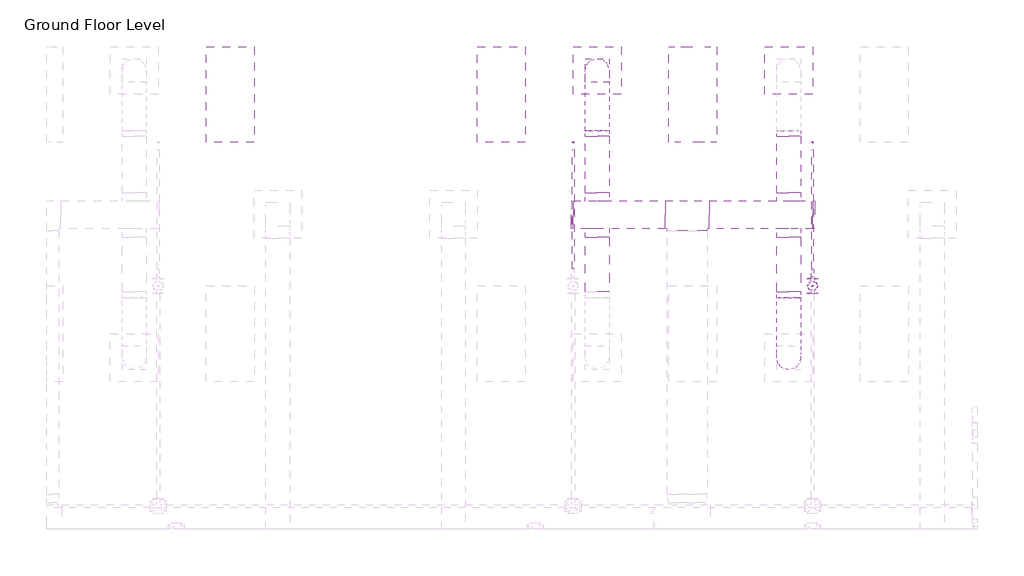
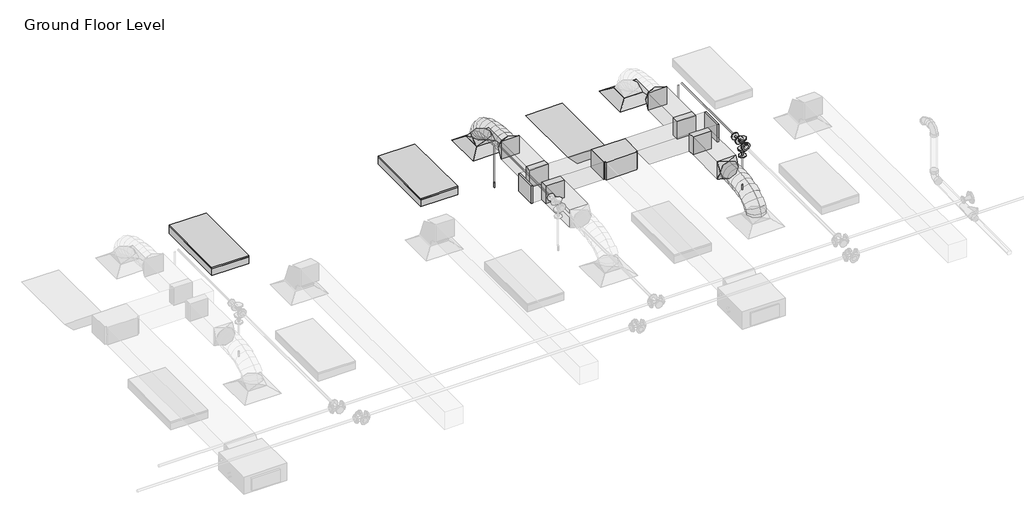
# One storey, part 57 of 74: 11 duct fittings, 8 duct segments, 5 pipe segments, 3 fire suppression terminals, 3 light fixtures, 3 pipe fittings, 2 air terminals.
"""IFC4 building model written with IfcOpenShell, lengths in millimetres."""

from ifc_helpers import new_model, si_unit, point, frame, frame_2d, origin, place, context, project, spatial, polyline, circle_curve, ellipse_curve, trimmed, segment, composite_curve, outline, extrude, transform, mapped, element, save
from ifc_brep_helpers import plane_surface, cylinder_surface, advanced_brep
from components import m_return_diffuser_600_x_600_face_300_x_300_connection_ff221211, m_rectangular_endcap_standard_eed78c44, m_rectangular_takeoff_standard_cb0ccb98, m_rectangular_takeoff_standard_2be5eba1, m_rectangular_tee_standard_9fc1ddf1, m_rectangular_to_round_transition_angle_45_degree_641efff0, m_sprinkler_dry_pendent_hosted_15_mm_dry_pendent_9bda8e11, m_emergency_recessed_lighting_fixture_600x1200_277_5b10b25d, m_troffer_light_parabolic_rectangular1_0600x1200mm_4_lamp_86473d4a, m_reducer_flanged_cs_class_150_standard_d42b2106, m_tee_round_base_flanged_cs_class_150_standard_7e5987a1

model = new_model("IFC4")

# Units and contexts
model_context = context("Model", 3, world=origin())
ifc_project = project(units=[si_unit("LENGTHUNIT", "METRE", prefix="MILLI")], contexts=[model_context])

# Site, building, storey
site = spatial("IfcSite", under=ifc_project)
building = spatial("IfcBuilding", under=site)
storey = spatial("IfcBuildingStorey", under=building, Name="Ground Floor Level", Elevation=900.0)

# Air terminals
placement = place(None, origin())
m_return_diffuser_600_x_600_face_300_x_300_connection_shape = m_return_diffuser_600_x_600_face_300_x_300_connection_ff221211(model_context)
element("IfcAirTerminal", 1, ObjectType="M_Supply Diffuser : 600 x 600 Face 300 x 300 Connection", at=placement, inside=storey, context=model_context, shape_type="MappedRepresentation", body=[
    mapped(m_return_diffuser_600_x_600_face_300_x_300_connection_shape, transform((-10937.2327605, 20535.2153534, 3650.0), x_axis=(1.0, 0.0, 0.0), y_axis=(0.0, 1.0, 0.0), z_axis=(0.0, 0.0, 1.0))),
])
element("IfcAirTerminal", 2, ObjectType="M_Supply Diffuser : 600 x 600 Face 300 x 300 Connection", at=placement, inside=storey, context=model_context, shape_type="MappedRepresentation", body=[
    mapped(m_return_diffuser_600_x_600_face_300_x_300_connection_shape, transform((-8537.2327605, 20535.2153534, 3650.0), x_axis=(1.0, 0.0, 0.0), y_axis=(0.0, 1.0, 0.0), z_axis=(0.0, 0.0, 1.0))),
])

# Duct fittings
m_rectangular_endcap_standard_shape = m_rectangular_endcap_standard_eed78c44(model_context)
element("IfcDuctFitting", 3, ObjectType="M_Rectangular Endcap : Standard", at=placement, inside=storey, context=model_context, shape_type="MappedRepresentation", body=[
    mapped(m_rectangular_endcap_standard_shape, transform((-8233.7327999, 18724.6783949, 4099.998205), x_axis=(0.9999999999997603, 0.0, -6.924715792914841e-07), y_axis=(0.0, 1.0000000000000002, 0.0), z_axis=(6.924715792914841e-07, 0.0, 0.9999999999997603))),
])
element("IfcDuctFitting", 4, ObjectType="M_Rectangular Endcap : Standard", at=placement, inside=storey, context=model_context, shape_type="MappedRepresentation", body=[
    mapped(m_rectangular_endcap_standard_shape, transform((-11237.2326293, 18724.6783949, 4099.9983101), x_axis=(-0.9999999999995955, 0.0, -8.994654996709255e-07), y_axis=(0.0, -1.0000000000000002, 0.0), z_axis=(-8.994654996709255e-07, 0.0, 0.9999999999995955))),
])
m_rectangular_takeoff_standard_shape = m_rectangular_takeoff_standard_cb0ccb98(model_context)
element("IfcDuctFitting", 5, ObjectType="M_Rectangular Takeoff : Standard", at=placement, inside=storey, context=model_context, shape_type="MappedRepresentation", body=[
    mapped(m_rectangular_takeoff_standard_shape, transform((-8537.2327605, 18899.6783949, 4099.9984152), x_axis=(0.0, 1.0, 0.0), y_axis=(1.0, 0.0, 0.0), z_axis=(0.0, 0.0, -1.0))),
])
element("IfcDuctFitting", 6, ObjectType="M_Rectangular Takeoff : Standard", at=placement, inside=storey, context=model_context, shape_type="MappedRepresentation", body=[
    mapped(m_rectangular_takeoff_standard_shape, transform((-10937.2327605, 18549.6783949, 4099.9985799), x_axis=(0.0, -1.0, 0.0), y_axis=(-1.0, 0.0, 0.0), z_axis=(0.0, 0.0, -1.0))),
])
m_rectangular_takeoff_standard_2_shape = m_rectangular_takeoff_standard_2be5eba1(model_context)
element("IfcDuctFitting", 7, ObjectType="M_Rectangular Takeoff : Standard", at=placement, inside=storey, context=model_context, shape_type="MappedRepresentation", body=[
    mapped(m_rectangular_takeoff_standard_2_shape, transform((-10937.2327605, 18899.6783949, 4099.9985799), x_axis=(0.0, 1.0, 0.0), y_axis=(1.0, 0.0, 0.0), z_axis=(0.0, 0.0, -1.0))),
])
element("IfcDuctFitting", 8, ObjectType="M_Rectangular Takeoff : Standard", at=placement, inside=storey, context=model_context, shape_type="MappedRepresentation", body=[
    mapped(m_rectangular_takeoff_standard_2_shape, transform((-8537.2327605, 18549.6783949, 4099.9984152), x_axis=(0.0, -1.0, 0.0), y_axis=(-1.0, 0.0, 0.0), z_axis=(0.0, 0.0, -1.0))),
])
m_rectangular_tee_standard_shape = m_rectangular_tee_standard_9fc1ddf1(model_context)
element("IfcDuctFitting", 9, ObjectType="M_Rectangular Tee : Standard", at=placement, inside=storey, context=model_context, shape_type="MappedRepresentation", body=[
    mapped(m_rectangular_tee_standard_shape, transform((-9808.7327605, 18724.6783949, 4099.9992264), x_axis=(0.999999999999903, 0.0, -4.406637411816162e-07), y_axis=(-1.704451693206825e-12, 0.9999999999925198, -3.867919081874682e-06), z_axis=(4.406637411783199e-07, 3.867919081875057e-06, 0.9999999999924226))),
])
m_rectangular_to_round_transition_angle_45_degree_shape = m_rectangular_to_round_transition_angle_45_degree_641efff0(model_context)
element("IfcDuctFitting", 10, ObjectType="M_Rectangular to Round Transition - Angle : 45 Degree", at=placement, inside=storey, context=model_context, shape_type="MappedRepresentation", body=[
    mapped(m_rectangular_to_round_transition_angle_45_degree_shape, transform((-10937.2327605, 20535.2153534, 3751.6), x_axis=(0.0, 0.0, 1.0), y_axis=(-1.0, 0.0, 0.0), z_axis=(0.0, -1.0, 0.0))),
])
element("IfcDuctFitting", 11, ObjectType="M_Rectangular to Round Transition - Angle : 45 Degree", at=placement, inside=storey, context=model_context, shape_type="MappedRepresentation", body=[
    mapped(m_rectangular_to_round_transition_angle_45_degree_shape, transform((-10937.2327605, 19707.878002, 4099.9985799), x_axis=(0.0, 1.0, 0.0), y_axis=(-1.0, 0.0, 0.0), z_axis=(0.0, 0.0, 1.0))),
])
element("IfcDuctFitting", 12, ObjectType="M_Rectangular to Round Transition - Angle : 45 Degree", at=placement, inside=storey, context=model_context, shape_type="MappedRepresentation", body=[
    mapped(m_rectangular_to_round_transition_angle_45_degree_shape, transform((-8537.2327605, 19707.8778373, 4099.9984152), x_axis=(0.0, 1.0, 0.0), y_axis=(-1.0, 0.0, 0.0), z_axis=(0.0, 0.0, 1.0))),
])
element("IfcDuctFitting", 13, ObjectType="M_Rectangular to Round Transition - Angle : 45 Degree", at=placement, inside=storey, context=model_context, shape_type="MappedRepresentation", body=[
    mapped(m_rectangular_to_round_transition_angle_45_degree_shape, transform((-8537.2327605, 17762.5528695, 4099.9984152), x_axis=(0.0, -1.0, 0.0), y_axis=(1.0, 0.0, 0.0), z_axis=(0.0, 0.0, 1.0))),
])

# Duct segments
element("IfcDuctSegment", 14, ObjectType="Flex - Round", at=placement, inside=storey, context=model_context, shape_type="AdvancedBrep", body=[
    advanced_brep(
    [(-10787.2327605, 20535.2153534, 3826.6), (-10937.2327605, 20385.2153534, 3826.6), (-11087.2327605, 20535.2153534, 3826.6), (-10937.2327605, 20685.2153534, 3826.6), (-10787.2327605, 20535.2153534, 3857.9377711), (-10937.2327605, 20385.2153534, 3832.2944759), (-11087.2327605, 20535.2153534, 3857.9377711), (-10937.2327605, 20685.2153534, 3883.5810662), (-10787.2327605, 20518.1993815, 3906.2505987), (-10937.2327605, 20384.461492, 3834.4348871), (-11087.2327605, 20518.1993815, 3906.2505987), (-10937.2327605, 20651.937271, 3978.0663103), (-10787.2327605, 20471.0153939, 3968.7112481), (-10937.2327605, 20366.8097377, 3857.8017132), (-11087.2327605, 20471.0153939, 3968.7112481), (-10937.2327605, 20575.2210501, 4079.620783), (-10787.2327605, 20399.4592831, 4016.0698216), (-10937.2327605, 20330.5256105, 3881.8159377), (-11087.2327605, 20399.4592831, 4016.0698216), (-10937.2327605, 20468.3929557, 4150.3237055), (-10787.2327605, 20309.3269414, 4050.4141926), (-10937.2327605, 20265.7665969, 3906.491959), (-11087.2327605, 20309.3269414, 4050.4141926), (-10937.2327605, 20352.8872859, 4194.3364261), (-10787.2327605, 20206.4142611, 4073.8322345), (-10937.2327605, 20179.853734, 3926.0416493), (-11087.2327605, 20206.4142611, 4073.8322345), (-10937.2327605, 20232.9747882, 4221.6228196), (-10787.2327605, 20096.5171347, 4088.4118207), (-10937.2327605, 20081.3665773, 3939.1075232), (-11087.2327605, 20096.5171347, 4088.4118207), (-10937.2327605, 20111.6676921, 4237.7161183), (-10787.2327605, 19985.4314545, 4096.2408248), (-10937.2327605, 19977.9263947, 3946.3976942), (-11087.2327605, 19985.4314545, 4096.2408248), (-10937.2327605, 19992.9365143, 4246.0839553), (-10787.2327605, 19878.9531128, 4099.40712), (-10937.2327605, 19876.2617774, 3949.4208461), (-11087.2327605, 19878.9531128, 4099.40712), (-10937.2327605, 19881.6444482, 4249.393394), (-10787.2327605, 19782.878002, 4099.9985799), (-10937.2327605, 19783.8014181, 4249.9957376), (-11087.2327605, 19782.878002, 4099.9985799), (-10937.2327605, 19781.9545859, 3950.0014223)],
    [
        (0, 1, circle_curve(frame((-10937.2327605, 20535.2153534, 3826.6), z_axis=(0.0, 0.0, -1.0), x_axis=(1.0, 0.0, 0.0)), 150.0)),
        (1, 2, circle_curve(frame((-10937.2327605, 20535.2153534, 3826.6), z_axis=(0.0, 0.0, -1.0), x_axis=(1.0, 0.0, 0.0)), 150.0)),
        (2, 3, circle_curve(frame((-10937.2327605, 20535.2153534, 3826.6), z_axis=(0.0, 0.0, -1.0), x_axis=(1.0, 0.0, 0.0)), 150.0)),
        (3, 0, circle_curve(frame((-10937.2327605, 20535.2153534, 3826.6), z_axis=(0.0, 0.0, -1.0), x_axis=(1.0, 0.0, 0.0)), 150.0)),
        (0, 4),
        (4, 5, ellipse_curve(frame((-10937.2327605, 20535.2153534, 3857.9377711), z_axis=(0.0, 0.1685106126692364, -0.9856998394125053), x_axis=(0.0, -0.9856998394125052, -0.16851061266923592)), 152.1761433, 150.0)),
        (5, 1),
        (5, 6, ellipse_curve(frame((-10937.2327605, 20535.2153534, 3857.9377711), z_axis=(0.0, 0.1685106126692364, -0.9856998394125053), x_axis=(0.0, -0.9856998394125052, -0.16851061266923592)), 152.1761433, 150.0)),
        (6, 2),
        (6, 7, ellipse_curve(frame((-10937.2327605, 20535.2153534, 3857.9377711), z_axis=(0.0, 0.1685106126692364, -0.9856998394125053), x_axis=(0.0, -0.9856998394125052, -0.16851061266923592)), 152.1761433, 150.0)),
        (7, 3),
        (7, 4, ellipse_curve(frame((-10937.2327605, 20535.2153534, 3857.9377711), z_axis=(0.0, 0.1685106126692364, -0.9856998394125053), x_axis=(0.0, -0.9856998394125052, -0.16851061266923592)), 152.1761433, 150.0)),
        (4, 8),
        (8, 9, ellipse_curve(frame((-10937.2327605, 20518.1993815, 3906.2505987), z_axis=(0.0, 0.4730934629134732, -0.8810122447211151), x_axis=(0.0, -0.8810122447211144, -0.47309346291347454)), 151.8002619, 150.0)),
        (9, 5),
        (9, 10, ellipse_curve(frame((-10937.2327605, 20518.1993815, 3906.2505987), z_axis=(0.0, 0.4730934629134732, -0.8810122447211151), x_axis=(0.0, -0.8810122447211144, -0.47309346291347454)), 151.8002619, 150.0)),
        (10, 6),
        (10, 11, ellipse_curve(frame((-10937.2327605, 20518.1993815, 3906.2505987), z_axis=(0.0, 0.4730934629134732, -0.8810122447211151), x_axis=(0.0, -0.8810122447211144, -0.47309346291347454)), 151.8002619, 150.0)),
        (11, 7),
        (11, 8, ellipse_curve(frame((-10937.2327605, 20518.1993815, 3906.2505987), z_axis=(0.0, 0.4730934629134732, -0.8810122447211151), x_axis=(0.0, -0.8810122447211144, -0.47309346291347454)), 151.8002619, 150.0)),
        (8, 12),
        (12, 13, ellipse_curve(frame((-10937.2327605, 20471.0153939, 3968.7112481), z_axis=(0.0, 0.7287893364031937, -0.684737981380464), x_axis=(0.0, -0.6847379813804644, -0.7287893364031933)), 152.183257, 150.0)),
        (13, 9),
        (13, 14, ellipse_curve(frame((-10937.2327605, 20471.0153939, 3968.7112481), z_axis=(0.0, 0.7287893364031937, -0.684737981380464), x_axis=(0.0, -0.6847379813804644, -0.7287893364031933)), 152.183257, 150.0)),
        (14, 10),
        (14, 15, ellipse_curve(frame((-10937.2327605, 20471.0153939, 3968.7112481), z_axis=(0.0, 0.7287893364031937, -0.684737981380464), x_axis=(0.0, -0.6847379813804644, -0.7287893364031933)), 152.183257, 150.0)),
        (15, 11),
        (15, 12, ellipse_curve(frame((-10937.2327605, 20471.0153939, 3968.7112481), z_axis=(0.0, 0.7287893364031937, -0.684737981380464), x_axis=(0.0, -0.6847379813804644, -0.7287893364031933)), 152.183257, 150.0)),
        (12, 16),
        (16, 17, ellipse_curve(frame((-10937.2327605, 20399.4592831, 4016.0698216), z_axis=(0.0, 0.8895872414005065, -0.4567653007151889), x_axis=(0.0, -0.45676530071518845, -0.8895872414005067)), 150.9170519, 150.0)),
        (17, 13),
        (17, 18, ellipse_curve(frame((-10937.2327605, 20399.4592831, 4016.0698216), z_axis=(0.0, 0.8895872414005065, -0.4567653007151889), x_axis=(0.0, -0.45676530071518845, -0.8895872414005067)), 150.9170519, 150.0)),
        (18, 14),
        (18, 19, ellipse_curve(frame((-10937.2327605, 20399.4592831, 4016.0698216), z_axis=(0.0, 0.8895872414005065, -0.4567653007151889), x_axis=(0.0, -0.45676530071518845, -0.8895872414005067)), 150.9170519, 150.0)),
        (19, 15),
        (19, 16, ellipse_curve(frame((-10937.2327605, 20399.4592831, 4016.0698216), z_axis=(0.0, 0.8895872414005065, -0.4567653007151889), x_axis=(0.0, -0.45676530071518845, -0.8895872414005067)), 150.9170519, 150.0)),
        (16, 20),
        (20, 21, ellipse_curve(frame((-10937.2327605, 20309.3269414, 4050.4141926), z_axis=(0.0, 0.9571211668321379, -0.28968788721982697), x_axis=(0.0, -0.2896878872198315, -0.9571211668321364)), 150.3699202, 150.0)),
        (21, 17),
        (21, 22, ellipse_curve(frame((-10937.2327605, 20309.3269414, 4050.4141926), z_axis=(0.0, 0.9571211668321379, -0.28968788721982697), x_axis=(0.0, -0.2896878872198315, -0.9571211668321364)), 150.3699202, 150.0)),
        (22, 18),
        (22, 23, ellipse_curve(frame((-10937.2327605, 20309.3269414, 4050.4141926), z_axis=(0.0, 0.9571211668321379, -0.28968788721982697), x_axis=(0.0, -0.2896878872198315, -0.9571211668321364)), 150.3699202, 150.0)),
        (23, 19),
        (23, 20, ellipse_curve(frame((-10937.2327605, 20309.3269414, 4050.4141926), z_axis=(0.0, 0.9571211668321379, -0.28968788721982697), x_axis=(0.0, -0.2896878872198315, -0.9571211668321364)), 150.3699202, 150.0)),
        (20, 24),
        (24, 25, ellipse_curve(frame((-10937.2327605, 20206.4142611, 4073.8322345), z_axis=(0.0, 0.9842317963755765, -0.176883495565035), x_axis=(0.0, -0.1768834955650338, -0.9842317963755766)), 150.158312, 150.0)),
        (25, 21),
        (25, 26, ellipse_curve(frame((-10937.2327605, 20206.4142611, 4073.8322345), z_axis=(0.0, 0.9842317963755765, -0.176883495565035), x_axis=(0.0, -0.1768834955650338, -0.9842317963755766)), 150.158312, 150.0)),
        (26, 22),
        (26, 27, ellipse_curve(frame((-10937.2327605, 20206.4142611, 4073.8322345), z_axis=(0.0, 0.9842317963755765, -0.176883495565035), x_axis=(0.0, -0.1768834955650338, -0.9842317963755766)), 150.158312, 150.0)),
        (27, 23),
        (27, 24, ellipse_curve(frame((-10937.2327605, 20206.4142611, 4073.8322345), z_axis=(0.0, 0.9842317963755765, -0.176883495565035), x_axis=(0.0, -0.1768834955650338, -0.9842317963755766)), 150.158312, 150.0)),
        (24, 28),
        (28, 29, ellipse_curve(frame((-10937.2327605, 20096.5171347, 4088.4118207), z_axis=(0.0, 0.9948909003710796, -0.10095591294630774), x_axis=(0.0, -0.10095591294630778, -0.9948909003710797)), 150.0710253, 150.0)),
        (29, 25),
        (29, 30, ellipse_curve(frame((-10937.2327605, 20096.5171347, 4088.4118207), z_axis=(0.0, 0.9948909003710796, -0.10095591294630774), x_axis=(0.0, -0.10095591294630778, -0.9948909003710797)), 150.0710253, 150.0)),
        (30, 26),
        (30, 31, ellipse_curve(frame((-10937.2327605, 20096.5171347, 4088.4118207), z_axis=(0.0, 0.9948909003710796, -0.10095591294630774), x_axis=(0.0, -0.10095591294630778, -0.9948909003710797)), 150.0710253, 150.0)),
        (31, 27),
        (31, 28, ellipse_curve(frame((-10937.2327605, 20096.5171347, 4088.4118207), z_axis=(0.0, 0.9948909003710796, -0.10095591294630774), x_axis=(0.0, -0.10095591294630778, -0.9948909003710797)), 150.0710253, 150.0)),
        (28, 32),
        (32, 33, ellipse_curve(frame((-10937.2327605, 19985.4314545, 4096.2408248), z_axis=(0.0, 0.9987480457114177, -0.05002340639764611), x_axis=(0.0, -0.05002340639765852, -0.9987480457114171)), 150.0309624, 150.0)),
        (33, 29),
        (33, 34, ellipse_curve(frame((-10937.2327605, 19985.4314545, 4096.2408248), z_axis=(0.0, 0.9987480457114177, -0.05002340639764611), x_axis=(0.0, -0.05002340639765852, -0.9987480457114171)), 150.0309624, 150.0)),
        (34, 30),
        (34, 35, ellipse_curve(frame((-10937.2327605, 19985.4314545, 4096.2408248), z_axis=(0.0, 0.9987480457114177, -0.05002340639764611), x_axis=(0.0, -0.05002340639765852, -0.9987480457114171)), 150.0309624, 150.0)),
        (35, 31),
        (35, 32, ellipse_curve(frame((-10937.2327605, 19985.4314545, 4096.2408248), z_axis=(0.0, 0.9987480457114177, -0.05002340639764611), x_axis=(0.0, -0.05002340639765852, -0.9987480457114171)), 150.0309624, 150.0)),
        (32, 36),
        (36, 37, ellipse_curve(frame((-10937.2327605, 19878.9531128, 4099.40712), z_axis=(0.0, 0.9998390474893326, -0.017940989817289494), x_axis=(0.0, -0.0179409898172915, -0.9998390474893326)), 150.0104185, 150.0)),
        (37, 33),
        (37, 38, ellipse_curve(frame((-10937.2327605, 19878.9531128, 4099.40712), z_axis=(0.0, 0.9998390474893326, -0.017940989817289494), x_axis=(0.0, -0.0179409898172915, -0.9998390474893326)), 150.0104185, 150.0)),
        (38, 34),
        (38, 39, ellipse_curve(frame((-10937.2327605, 19878.9531128, 4099.40712), z_axis=(0.0, 0.9998390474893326, -0.017940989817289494), x_axis=(0.0, -0.0179409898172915, -0.9998390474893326)), 150.0104185, 150.0)),
        (39, 35),
        (39, 36, ellipse_curve(frame((-10937.2327605, 19878.9531128, 4099.40712), z_axis=(0.0, 0.9998390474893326, -0.017940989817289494), x_axis=(0.0, -0.0179409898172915, -0.9998390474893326)), 150.0104185, 150.0)),
        (40, 41, circle_curve(frame((-10937.2327605, 19782.878002, 4099.9985799), z_axis=(0.0, -0.9999810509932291, 0.006156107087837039), x_axis=(1.0, 0.0, 0.0)), 150.0)),
        (41, 42, circle_curve(frame((-10937.2327605, 19782.878002, 4099.9985799), z_axis=(0.0, -0.9999810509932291, 0.006156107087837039), x_axis=(1.0, 0.0, 0.0)), 150.0)),
        (42, 43, circle_curve(frame((-10937.2327605, 19782.878002, 4099.9985799), z_axis=(0.0, -0.9999810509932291, 0.006156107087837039), x_axis=(1.0, 0.0, 0.0)), 150.0)),
        (43, 40, circle_curve(frame((-10937.2327605, 19782.878002, 4099.9985799), z_axis=(0.0, -0.9999810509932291, 0.006156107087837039), x_axis=(1.0, 0.0, 0.0)), 150.0)),
        (36, 40),
        (43, 37),
        (42, 38),
        (41, 39),
    ],
    [
        plane_surface(frame((-10937.2327605, 20385.2153534, 3826.6), z_axis=(0.0, 0.0, -1.0), x_axis=(1.0, 0.0, 0.0))),
        cylinder_surface(frame((-10937.2327605, 20535.2153534, 3826.6), z_axis=(0.0, 0.0, -1.0), x_axis=(1.0, 0.0, 0.0)), 150.0),
        cylinder_surface(frame((-10937.2327605, 20535.2153534, 3857.9377711), z_axis=(0.0, 0.33220176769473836, -0.9432083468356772), x_axis=(1.0, 0.0, 0.0)), 150.0),
        cylinder_surface(frame((-10937.2327605, 20518.1993815, 3906.2505987), z_axis=(0.0, 0.6027639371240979, -0.7979195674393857), x_axis=(1.0, 0.0, 0.0)), 150.0),
        cylinder_surface(frame((-10937.2327605, 20471.0153939, 3968.7112481), z_axis=(0.0, 0.8339039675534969, -0.5519095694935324), x_axis=(1.0, 0.0, 0.0)), 150.0),
        cylinder_surface(frame((-10937.2327605, 20399.4592831, 4016.0698216), z_axis=(0.0, 0.9344593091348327, -0.35606993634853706), x_axis=(1.0, 0.0, 0.0)), 150.0),
        cylinder_surface(frame((-10937.2327605, 20309.3269414, 4050.4141926), z_axis=(0.0, 0.9750738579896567, -0.2218805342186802), x_axis=(1.0, 0.0, 0.0)), 150.0),
        cylinder_surface(frame((-10937.2327605, 20206.4142611, 4073.8322345), z_axis=(0.0, 0.9913143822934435, -0.13151348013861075), x_axis=(1.0, 0.0, 0.0)), 150.0),
        cylinder_surface(frame((-10937.2327605, 20096.5171347, 4088.4118207), z_axis=(0.0, 0.997525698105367, -0.07030278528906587), x_axis=(1.0, 0.0, 0.0)), 150.0),
        cylinder_surface(frame((-10937.2327605, 19985.4314545, 4096.2408248), z_axis=(0.0, 0.9995581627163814, -0.02972338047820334), x_axis=(1.0, 0.0, 0.0)), 150.0),
        plane_surface(frame((-10937.2327605, 19781.9545859, 3950.0014223), z_axis=(0.0, -0.9999810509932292, 0.006156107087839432), x_axis=(1.0, 0.0, 0.0))),
        cylinder_surface(frame((-10937.2327605, 19878.9531128, 4099.40712), z_axis=(0.0, 0.9999810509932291, -0.006156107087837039), x_axis=(1.0, 0.0, 0.0)), 150.0),
    ],
    [
        (0, [[1, 2, 3, 4]]),
        (1, [[-1, 5, 6, 7]]),
        (1, [[-2, -7, 8, 9]]),
        (1, [[-3, -9, 10, 11]]),
        (1, [[-4, -11, 12, -5]]),
        (2, [[-6, 13, 14, 15]]),
        (2, [[-8, -15, 16, 17]]),
        (2, [[-10, -17, 18, 19]]),
        (2, [[-12, -19, 20, -13]]),
        (3, [[-14, 21, 22, 23]]),
        (3, [[-16, -23, 24, 25]]),
        (3, [[-18, -25, 26, 27]]),
        (3, [[-20, -27, 28, -21]]),
        (4, [[-22, 29, 30, 31]]),
        (4, [[-24, -31, 32, 33]]),
        (4, [[-26, -33, 34, 35]]),
        (4, [[-28, -35, 36, -29]]),
        (5, [[-30, 37, 38, 39]]),
        (5, [[-32, -39, 40, 41]]),
        (5, [[-34, -41, 42, 43]]),
        (5, [[-36, -43, 44, -37]]),
        (6, [[-38, 45, 46, 47]]),
        (6, [[-40, -47, 48, 49]]),
        (6, [[-42, -49, 50, 51]]),
        (6, [[-44, -51, 52, -45]]),
        (7, [[-46, 53, 54, 55]]),
        (7, [[-48, -55, 56, 57]]),
        (7, [[-50, -57, 58, 59]]),
        (7, [[-52, -59, 60, -53]]),
        (8, [[-54, 61, 62, 63]]),
        (8, [[-56, -63, 64, 65]]),
        (8, [[-58, -65, 66, 67]]),
        (8, [[-60, -67, 68, -61]]),
        (9, [[-62, 69, 70, 71]]),
        (9, [[-64, -71, 72, 73]]),
        (9, [[-66, -73, 74, 75]]),
        (9, [[-68, -75, 76, -69]]),
        (10, [[77, 78, 79, 80]]),
        (11, [[-70, 81, -80, 82]]),
        (11, [[-72, -82, -79, 83]]),
        (11, [[-74, -83, -78, 84]]),
        (11, [[-76, -84, -77, -81]]),
    ],
),
])
element("IfcDuctSegment", 15, ObjectType="Flex - Round", at=placement, inside=storey, context=model_context, shape_type="AdvancedBrep", body=[
    advanced_brep(
    [(-8387.2327605, 16935.2153534, 3826.6), (-8537.2327605, 16785.2153534, 3826.6), (-8687.2327605, 16935.2153534, 3826.6), (-8537.2327605, 17085.2153534, 3826.6), (-8387.2327605, 16935.2153534, 3857.937778), (-8537.2327605, 16785.2153534, 3883.5810816), (-8687.2327605, 16935.2153534, 3857.937778), (-8537.2327605, 17085.2153534, 3832.2944744), (-8387.2327605, 16952.2313299, 3906.2506017), (-8537.2327605, 16818.4934508, 3978.0663351), (-8687.2327605, 16952.2313299, 3906.2506017), (-8537.2327605, 17085.969209, 3834.4348684), (-8387.2327605, 16999.4153299, 3968.7112406), (-8537.2327605, 16895.2097019, 4079.6208039), (-8687.2327605, 16999.4153299, 3968.7112406), (-8537.2327605, 17103.6209579, 3857.8016772), (-8387.2327605, 17070.9714591, 4016.0697935), (-8537.2327605, 17002.0378309, 4150.3237004), (-8687.2327605, 17070.9714591, 4016.0697935), (-8537.2327605, 17139.9050873, 3881.8158865), (-8387.2327605, 17161.1038233, 4050.4141374), (-8537.2327605, 17117.5435273, 4194.3363855), (-8687.2327605, 17161.1038233, 4050.4141374), (-8537.2327605, 17204.6641192, 3906.4918893), (-8387.2327605, 17264.0165282, 4073.8321493), (-8537.2327605, 17237.4560471, 4221.6227426), (-8687.2327605, 17264.0165282, 4073.8321493), (-8537.2327605, 17290.5770092, 3926.0415559), (-8387.2327605, 17373.9136795, 4088.411706), (-8537.2327605, 17358.7631621, 4237.7160075), (-8687.2327605, 17373.9136795, 4088.411706), (-8537.2327605, 17389.0641968, 3939.1074046), (-8387.2327605, 17484.999383, 4096.2406846), (-8537.2327605, 17477.4943543, 4246.0838166), (-8687.2327605, 17484.999383, 4096.2406846), (-8537.2327605, 17492.5044117, 3946.3975526), (-8387.2327605, 17591.4777444, 4099.406962), (-8537.2327605, 17588.7864273, 4249.3932362), (-8687.2327605, 17591.4777444, 4099.406962), (-8537.2327605, 17594.1690615, 3949.4206879), (-8387.2327605, 17687.5528695, 4099.9984152), (-8537.2327605, 17688.4762749, 3950.0012575), (-8687.2327605, 17687.5528695, 4099.9984152), (-8537.2327605, 17686.6294641, 4249.9955729)],
    [
        (0, 1, circle_curve(frame((-8537.2327605, 16935.2153534, 3826.6), z_axis=(0.0, 0.0, -1.0), x_axis=(1.0, 0.0, 0.0)), 150.0)),
        (1, 2, circle_curve(frame((-8537.2327605, 16935.2153534, 3826.6), z_axis=(0.0, 0.0, -1.0), x_axis=(1.0, 0.0, 0.0)), 150.0)),
        (2, 3, circle_curve(frame((-8537.2327605, 16935.2153534, 3826.6), z_axis=(0.0, 0.0, -1.0), x_axis=(1.0, 0.0, 0.0)), 150.0)),
        (3, 0, circle_curve(frame((-8537.2327605, 16935.2153534, 3826.6), z_axis=(0.0, 0.0, -1.0), x_axis=(1.0, 0.0, 0.0)), 150.0)),
        (0, 4),
        (4, 5, ellipse_curve(frame((-8537.2327605, 16935.2153534, 3857.937778), z_axis=(0.0, -0.16851066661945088, -0.9856998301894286), x_axis=(0.0, 0.9856998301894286, -0.16851066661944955)), 152.1761447, 150.0)),
        (5, 1),
        (5, 6, ellipse_curve(frame((-8537.2327605, 16935.2153534, 3857.937778), z_axis=(0.0, -0.16851066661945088, -0.9856998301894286), x_axis=(0.0, 0.9856998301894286, -0.16851066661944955)), 152.1761447, 150.0)),
        (6, 2),
        (6, 7, ellipse_curve(frame((-8537.2327605, 16935.2153534, 3857.937778), z_axis=(0.0, -0.16851066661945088, -0.9856998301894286), x_axis=(0.0, 0.9856998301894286, -0.16851066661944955)), 152.1761447, 150.0)),
        (7, 3),
        (7, 4, ellipse_curve(frame((-8537.2327605, 16935.2153534, 3857.937778), z_axis=(0.0, -0.16851066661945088, -0.9856998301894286), x_axis=(0.0, 0.9856998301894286, -0.16851066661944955)), 152.1761447, 150.0)),
        (4, 8),
        (8, 9, ellipse_curve(frame((-8537.2327605, 16952.2313299, 3906.2506017), z_axis=(0.0, -0.4730936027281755, -0.8810121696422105), x_axis=(0.0, 0.8810121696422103, -0.4730936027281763)), 151.8002631, 150.0)),
        (9, 5),
        (9, 10, ellipse_curve(frame((-8537.2327605, 16952.2313299, 3906.2506017), z_axis=(0.0, -0.4730936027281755, -0.8810121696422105), x_axis=(0.0, 0.8810121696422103, -0.4730936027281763)), 151.8002631, 150.0)),
        (10, 6),
        (10, 11, ellipse_curve(frame((-8537.2327605, 16952.2313299, 3906.2506017), z_axis=(0.0, -0.4730936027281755, -0.8810121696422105), x_axis=(0.0, 0.8810121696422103, -0.4730936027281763)), 151.8002631, 150.0)),
        (11, 7),
        (11, 8, ellipse_curve(frame((-8537.2327605, 16952.2313299, 3906.2506017), z_axis=(0.0, -0.4730936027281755, -0.8810121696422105), x_axis=(0.0, 0.8810121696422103, -0.4730936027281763)), 151.8002631, 150.0)),
        (8, 12),
        (12, 13, ellipse_curve(frame((-8537.2327605, 16999.4153299, 3968.7112406), z_axis=(0.0, -0.72878951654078, -0.684737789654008), x_axis=(0.0, 0.6847377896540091, -0.7287895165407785)), 152.1832584, 150.0)),
        (13, 9),
        (13, 14, ellipse_curve(frame((-8537.2327605, 16999.4153299, 3968.7112406), z_axis=(0.0, -0.72878951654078, -0.684737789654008), x_axis=(0.0, 0.6847377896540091, -0.7287895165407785)), 152.1832584, 150.0)),
        (14, 10),
        (14, 15, ellipse_curve(frame((-8537.2327605, 16999.4153299, 3968.7112406), z_axis=(0.0, -0.72878951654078, -0.684737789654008), x_axis=(0.0, 0.6847377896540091, -0.7287895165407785)), 152.1832584, 150.0)),
        (15, 11),
        (15, 12, ellipse_curve(frame((-8537.2327605, 16999.4153299, 3968.7112406), z_axis=(0.0, -0.72878951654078, -0.684737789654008), x_axis=(0.0, 0.6847377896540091, -0.7287895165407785)), 152.1832584, 150.0)),
        (12, 16),
        (16, 17, ellipse_curve(frame((-8537.2327605, 17070.9714591, 4016.0697935), z_axis=(0.0, -0.889587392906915, -0.45676500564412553), x_axis=(0.0, 0.45676500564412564, -0.889587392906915)), 150.9170521, 150.0)),
        (17, 13),
        (17, 18, ellipse_curve(frame((-8537.2327605, 17070.9714591, 4016.0697935), z_axis=(0.0, -0.889587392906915, -0.45676500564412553), x_axis=(0.0, 0.45676500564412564, -0.889587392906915)), 150.9170521, 150.0)),
        (18, 14),
        (18, 19, ellipse_curve(frame((-8537.2327605, 17070.9714591, 4016.0697935), z_axis=(0.0, -0.889587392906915, -0.45676500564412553), x_axis=(0.0, 0.45676500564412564, -0.889587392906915)), 150.9170521, 150.0)),
        (19, 15),
        (19, 16, ellipse_curve(frame((-8537.2327605, 17070.9714591, 4016.0697935), z_axis=(0.0, -0.889587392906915, -0.45676500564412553), x_axis=(0.0, 0.45676500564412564, -0.889587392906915)), 150.9170521, 150.0)),
        (16, 20),
        (20, 21, ellipse_curve(frame((-8537.2327605, 17161.1038233, 4050.4141374), z_axis=(0.0, -0.9571212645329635, -0.28968756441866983), x_axis=(0.0, 0.28968756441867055, -0.9571212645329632)), 150.3699202, 150.0)),
        (21, 17),
        (21, 22, ellipse_curve(frame((-8537.2327605, 17161.1038233, 4050.4141374), z_axis=(0.0, -0.9571212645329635, -0.28968756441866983), x_axis=(0.0, 0.28968756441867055, -0.9571212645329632)), 150.3699202, 150.0)),
        (22, 18),
        (22, 23, ellipse_curve(frame((-8537.2327605, 17161.1038233, 4050.4141374), z_axis=(0.0, -0.9571212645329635, -0.28968756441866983), x_axis=(0.0, 0.28968756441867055, -0.9571212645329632)), 150.3699202, 150.0)),
        (23, 19),
        (23, 20, ellipse_curve(frame((-8537.2327605, 17161.1038233, 4050.4141374), z_axis=(0.0, -0.9571212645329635, -0.28968756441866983), x_axis=(0.0, 0.28968756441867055, -0.9571212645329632)), 150.3699202, 150.0)),
        (20, 24),
        (24, 25, ellipse_curve(frame((-8537.2327605, 17264.0165282, 4073.8321493), z_axis=(0.0, -0.9842318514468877, -0.17688318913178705), x_axis=(0.0, 0.17688318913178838, -0.9842318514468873)), 150.1583119, 150.0)),
        (25, 21),
        (25, 26, ellipse_curve(frame((-8537.2327605, 17264.0165282, 4073.8321493), z_axis=(0.0, -0.9842318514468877, -0.17688318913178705), x_axis=(0.0, 0.17688318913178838, -0.9842318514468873)), 150.1583119, 150.0)),
        (26, 22),
        (26, 27, ellipse_curve(frame((-8537.2327605, 17264.0165282, 4073.8321493), z_axis=(0.0, -0.9842318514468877, -0.17688318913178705), x_axis=(0.0, 0.17688318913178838, -0.9842318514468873)), 150.1583119, 150.0)),
        (27, 23),
        (27, 24, ellipse_curve(frame((-8537.2327605, 17264.0165282, 4073.8321493), z_axis=(0.0, -0.9842318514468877, -0.17688318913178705), x_axis=(0.0, 0.17688318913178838, -0.9842318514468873)), 150.1583119, 150.0)),
        (24, 28),
        (28, 29, ellipse_curve(frame((-8537.2327605, 17373.9136795, 4088.411706), z_axis=(0.0, -0.9948909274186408, -0.10095564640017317), x_axis=(0.0, 0.10095564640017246, -0.9948909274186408)), 150.0710252, 150.0)),
        (29, 25),
        (29, 30, ellipse_curve(frame((-8537.2327605, 17373.9136795, 4088.411706), z_axis=(0.0, -0.9948909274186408, -0.10095564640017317), x_axis=(0.0, 0.10095564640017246, -0.9948909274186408)), 150.0710252, 150.0)),
        (30, 26),
        (30, 31, ellipse_curve(frame((-8537.2327605, 17373.9136795, 4088.411706), z_axis=(0.0, -0.9948909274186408, -0.10095564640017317), x_axis=(0.0, 0.10095564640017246, -0.9948909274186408)), 150.0710252, 150.0)),
        (31, 27),
        (31, 28, ellipse_curve(frame((-8537.2327605, 17373.9136795, 4088.411706), z_axis=(0.0, -0.9948909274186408, -0.10095564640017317), x_axis=(0.0, 0.10095564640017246, -0.9948909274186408)), 150.0710252, 150.0)),
        (28, 32),
        (32, 33, ellipse_curve(frame((-8537.2327605, 17484.999383, 4096.2406846), z_axis=(0.0, -0.9987480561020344, -0.050023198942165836), x_axis=(0.0, 0.050023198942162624, -0.9987480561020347)), 150.0309623, 150.0)),
        (33, 29),
        (33, 34, ellipse_curve(frame((-8537.2327605, 17484.999383, 4096.2406846), z_axis=(0.0, -0.9987480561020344, -0.050023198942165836), x_axis=(0.0, 0.050023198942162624, -0.9987480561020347)), 150.0309623, 150.0)),
        (34, 30),
        (34, 35, ellipse_curve(frame((-8537.2327605, 17484.999383, 4096.2406846), z_axis=(0.0, -0.9987480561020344, -0.050023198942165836), x_axis=(0.0, 0.050023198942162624, -0.9987480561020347)), 150.0309623, 150.0)),
        (35, 31),
        (35, 32, ellipse_curve(frame((-8537.2327605, 17484.999383, 4096.2406846), z_axis=(0.0, -0.9987480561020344, -0.050023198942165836), x_axis=(0.0, 0.050023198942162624, -0.9987480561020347)), 150.0309623, 150.0)),
        (32, 36),
        (36, 37, ellipse_curve(frame((-8537.2327605, 17591.4777444, 4099.406962), z_axis=(0.0, -0.99983904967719, -0.017940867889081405), x_axis=(0.0, 0.017940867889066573, -0.9998390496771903)), 150.0104184, 150.0)),
        (37, 33),
        (37, 38, ellipse_curve(frame((-8537.2327605, 17591.4777444, 4099.406962), z_axis=(0.0, -0.99983904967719, -0.017940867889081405), x_axis=(0.0, 0.017940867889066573, -0.9998390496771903)), 150.0104184, 150.0)),
        (38, 34),
        (38, 39, ellipse_curve(frame((-8537.2327605, 17591.4777444, 4099.406962), z_axis=(0.0, -0.99983904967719, -0.017940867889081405), x_axis=(0.0, 0.017940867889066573, -0.9998390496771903)), 150.0104184, 150.0)),
        (39, 35),
        (39, 36, ellipse_curve(frame((-8537.2327605, 17591.4777444, 4099.406962), z_axis=(0.0, -0.99983904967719, -0.017940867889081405), x_axis=(0.0, 0.017940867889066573, -0.9998390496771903)), 150.0104184, 150.0)),
        (40, 41, circle_curve(frame((-8537.2327605, 17687.5528695, 4099.9984152), z_axis=(0.0, 0.9999810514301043, 0.006156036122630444), x_axis=(1.0, 0.0, 0.0)), 150.0)),
        (41, 42, circle_curve(frame((-8537.2327605, 17687.5528695, 4099.9984152), z_axis=(0.0, 0.9999810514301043, 0.006156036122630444), x_axis=(1.0, 0.0, 0.0)), 150.0)),
        (42, 43, circle_curve(frame((-8537.2327605, 17687.5528695, 4099.9984152), z_axis=(0.0, 0.9999810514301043, 0.006156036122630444), x_axis=(1.0, 0.0, 0.0)), 150.0)),
        (43, 40, circle_curve(frame((-8537.2327605, 17687.5528695, 4099.9984152), z_axis=(0.0, 0.9999810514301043, 0.006156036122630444), x_axis=(1.0, 0.0, 0.0)), 150.0)),
        (36, 40),
        (43, 37),
        (42, 38),
        (41, 39),
    ],
    [
        plane_surface(frame((-8537.2327605, 16785.2153534, 3826.6), z_axis=(0.0, 0.0, -1.0), x_axis=(1.0, 0.0, 0.0))),
        cylinder_surface(frame((-8537.2327605, 16935.2153534, 3826.6), z_axis=(0.0, 0.0, -1.0), x_axis=(1.0, 0.0, 0.0)), 150.0),
        cylinder_surface(frame((-8537.2327605, 16935.2153534, 3857.937778), z_axis=(0.0, -0.33220187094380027, -0.9432083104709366), x_axis=(1.0, 0.0, 0.0)), 150.0),
        cylinder_surface(frame((-8537.2327605, 16952.2313299, 3906.2506017), z_axis=(0.0, -0.6027641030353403, -0.7979194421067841), x_axis=(1.0, 0.0, 0.0)), 150.0),
        cylinder_surface(frame((-8537.2327605, 16999.4153299, 3968.7112406), z_axis=(0.0, -0.8339041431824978, -0.5519093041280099), x_axis=(1.0, 0.0, 0.0)), 150.0),
        cylinder_surface(frame((-8537.2327605, 17070.9714591, 4016.0697935), z_axis=(0.0, -0.9344594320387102, -0.3560696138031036), x_axis=(1.0, 0.0, 0.0)), 150.0),
        cylinder_surface(frame((-8537.2327605, 17161.1038233, 4050.4141374), z_axis=(0.0, -0.9750739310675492, -0.22188021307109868), x_axis=(1.0, 0.0, 0.0)), 150.0),
        cylinder_surface(frame((-8537.2327605, 17264.0165282, 4073.8321493), z_axis=(0.0, -0.9913144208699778, -0.13151318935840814), x_axis=(1.0, 0.0, 0.0)), 150.0),
        cylinder_surface(frame((-8537.2327605, 17373.9136795, 4088.411706), z_axis=(0.0, -0.9975257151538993, -0.07030254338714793), x_axis=(1.0, 0.0, 0.0)), 150.0),
        cylinder_surface(frame((-8537.2327605, 17484.999383, 4096.2406846), z_axis=(0.0, -0.9995581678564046, -0.029723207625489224), x_axis=(1.0, 0.0, 0.0)), 150.0),
        plane_surface(frame((-8537.2327605, 17686.6294641, 4249.9955729), z_axis=(0.0, 0.9999810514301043, 0.0061560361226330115), x_axis=(1.0, 0.0, 0.0))),
        cylinder_surface(frame((-8537.2327605, 17591.4777444, 4099.406962), z_axis=(0.0, -0.9999810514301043, -0.006156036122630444), x_axis=(1.0, 0.0, 0.0)), 150.0),
    ],
    [
        (0, [[1, 2, 3, 4]]),
        (1, [[-1, 5, 6, 7]]),
        (1, [[-2, -7, 8, 9]]),
        (1, [[-3, -9, 10, 11]]),
        (1, [[-4, -11, 12, -5]]),
        (2, [[-6, 13, 14, 15]]),
        (2, [[-8, -15, 16, 17]]),
        (2, [[-10, -17, 18, 19]]),
        (2, [[-12, -19, 20, -13]]),
        (3, [[-14, 21, 22, 23]]),
        (3, [[-16, -23, 24, 25]]),
        (3, [[-18, -25, 26, 27]]),
        (3, [[-20, -27, 28, -21]]),
        (4, [[-22, 29, 30, 31]]),
        (4, [[-24, -31, 32, 33]]),
        (4, [[-26, -33, 34, 35]]),
        (4, [[-28, -35, 36, -29]]),
        (5, [[-30, 37, 38, 39]]),
        (5, [[-32, -39, 40, 41]]),
        (5, [[-34, -41, 42, 43]]),
        (5, [[-36, -43, 44, -37]]),
        (6, [[-38, 45, 46, 47]]),
        (6, [[-40, -47, 48, 49]]),
        (6, [[-42, -49, 50, 51]]),
        (6, [[-44, -51, 52, -45]]),
        (7, [[-46, 53, 54, 55]]),
        (7, [[-48, -55, 56, 57]]),
        (7, [[-50, -57, 58, 59]]),
        (7, [[-52, -59, 60, -53]]),
        (8, [[-54, 61, 62, 63]]),
        (8, [[-56, -63, 64, 65]]),
        (8, [[-58, -65, 66, 67]]),
        (8, [[-60, -67, 68, -61]]),
        (9, [[-62, 69, 70, 71]]),
        (9, [[-64, -71, 72, 73]]),
        (9, [[-66, -73, 74, 75]]),
        (9, [[-68, -75, 76, -69]]),
        (10, [[77, 78, 79, 80]]),
        (11, [[-70, 81, -80, 82]]),
        (11, [[-72, -82, -79, 83]]),
        (11, [[-74, -83, -78, 84]]),
        (11, [[-76, -84, -77, -81]]),
    ],
),
])
element("IfcDuctSegment", 16, ObjectType="Radius Elbows / Taps", at=placement, inside=storey, context=model_context, shape_type="SweptSolid", body=[
    extrude(outline(polyline([(-9533.7327605, 18549.6783949), (-9533.7327605, 18899.6783949), (-8233.7327999, 18899.6783949), (-8233.7327999, 18549.6783949), (-9533.7327605, 18549.6783949)])), frame((0.0, 0.0, 3949.9991052), z_axis=(0.0, 0.0, 1.0), x_axis=(1.0, 0.0, 0.0)), (0.0, 0.0, 1.0), 300.0),
])
element("IfcDuctSegment", 17, ObjectType="Radius Elbows / Taps", at=placement, inside=storey, context=model_context, shape_type="SweptSolid", body=[
    extrude(outline(polyline([(-10083.7327605, 18899.6783949), (-10083.7327605, 18549.6783949), (-11237.2326293, 18549.6783949), (-11237.2326293, 18899.6783949), (-10083.7327605, 18899.6783949)])), frame((0.0, 0.0, 3949.9993476), z_axis=(0.0, 0.0, 1.0), x_axis=(1.0, 0.0, 0.0)), (0.0, 0.0, 1.0), 300.0),
])
element("IfcDuctSegment", 18, ObjectType="Radius Elbows / Taps", at=placement, inside=storey, context=model_context, shape_type="SweptSolid", body=[
    extrude(outline(polyline([(-10787.2327605, 19001.2783949), (-11087.2327605, 19001.2783949), (-11087.2327605, 19707.878002), (-10787.2327605, 19707.878002), (-10787.2327605, 19001.2783949)])), frame((0.0, 0.0, 3949.9985799), z_axis=(0.0, 0.0, 1.0), x_axis=(1.0, 0.0, 0.0)), (0.0, 0.0, 1.0), 300.0),
])
element("IfcDuctSegment", 19, ObjectType="Radius Elbows / Taps", at=placement, inside=storey, context=model_context, shape_type="SweptSolid", body=[
    extrude(outline(polyline([(-8387.2327605, 19001.2783949), (-8687.2327605, 19001.2783949), (-8687.2327605, 19707.8778373), (-8387.2327605, 19707.8778373), (-8387.2327605, 19001.2783949)])), frame((0.0, 0.0, 3949.9984152), z_axis=(0.0, 0.0, 1.0), x_axis=(1.0, 0.0, 0.0)), (0.0, 0.0, 1.0), 300.0),
])
element("IfcDuctSegment", 20, ObjectType="Radius Elbows / Taps", at=placement, inside=storey, context=model_context, shape_type="SweptSolid", body=[
    extrude(outline(polyline([(-8687.2327605, 18448.0783949), (-8387.2327605, 18448.0783949), (-8387.2327605, 17762.5528695), (-8687.2327605, 17762.5528695), (-8687.2327605, 18448.0783949)])), frame((0.0, 0.0, 3949.9984152), z_axis=(0.0, 0.0, 1.0), x_axis=(1.0, 0.0, 0.0)), (0.0, 0.0, 1.0), 300.0),
])
element("IfcDuctSegment", 21, ObjectType="Radius Elbows / Taps", at=placement, inside=storey, context=model_context, shape_type="SweptSolid", body=[
    extrude(outline(polyline([(-11087.2327605, 18448.0783949), (-10787.2327605, 18448.0783949), (-10787.2327605, 17762.5527048), (-11087.2327605, 17762.5527048), (-11087.2327605, 18448.0783949)])), frame((0.0, 0.0, 3949.9985799), z_axis=(0.0, 0.0, 1.0), x_axis=(1.0, 0.0, 0.0)), (0.0, 0.0, 1.0), 300.0),
])

# Fire suppression terminals
m_sprinkler_dry_pendent_hosted_15_mm_dry_pendent_shape = m_sprinkler_dry_pendent_hosted_15_mm_dry_pendent_9bda8e11(model_context)
element("IfcFireSuppressionTerminal", 22, ObjectType="M_Sprinkler - Dry - Pendent - Hosted : 15 mm Dry Pendent", at=placement, inside=storey, context=model_context, shape_type="MappedRepresentation", body=[
    mapped(m_sprinkler_dry_pendent_hosted_15_mm_dry_pendent_shape, transform((-11237.2327605, 19635.2153534, 3650.0), x_axis=(1.0, 0.0, 0.0), y_axis=(0.0, -1.0, 0.0), z_axis=(0.0, 0.0, -1.0))),
])
element("IfcFireSuppressionTerminal", 23, ObjectType="M_Sprinkler - Dry - Pendent - Hosted : 15 mm Dry Pendent", at=placement, inside=storey, context=model_context, shape_type="MappedRepresentation", body=[
    mapped(m_sprinkler_dry_pendent_hosted_15_mm_dry_pendent_shape, transform((-8237.2327605, 19635.2153534, 3650.0), x_axis=(1.0, 0.0, 0.0), y_axis=(0.0, -1.0, 0.0), z_axis=(0.0, 0.0, -1.0))),
])
element("IfcFireSuppressionTerminal", 24, ObjectType="M_Sprinkler - Dry - Pendent - Hosted : 15 mm Dry Pendent", at=placement, inside=storey, context=model_context, shape_type="MappedRepresentation", body=[
    mapped(m_sprinkler_dry_pendent_hosted_15_mm_dry_pendent_shape, transform((-8237.2327605, 17835.2153534, 3650.0), x_axis=(1.0, 0.0, 0.0), y_axis=(0.0, -1.0, 0.0), z_axis=(0.0, 0.0, -1.0))),
])

# Light fixtures
m_emergency_recessed_lighting_fixture_600x1200_277_shape = m_emergency_recessed_lighting_fixture_600x1200_277_5b10b25d(model_context)
element("IfcLightFixture", 25, ObjectType="M_Emergency Recessed Lighting Fixture : 600x1200 - 277", at=placement, inside=storey, context=model_context, shape_type="MappedRepresentation", body=[
    mapped(m_emergency_recessed_lighting_fixture_600x1200_277_shape, transform((-10037.2327605, 19635.2153534, 3650.0), x_axis=(0.0, 1.0, 0.0), y_axis=(-1.0, 0.0, 0.0), z_axis=(0.0, 0.0, 1.0))),
])
m_troffer_light_parabolic_rectangular1_0600x1200mm_4_lamp_shape = m_troffer_light_parabolic_rectangular1_0600x1200mm_4_lamp_86473d4a(model_context)
element("IfcLightFixture", 26, ObjectType="M_Troffer Light - Parabolic Rectangular1 : 0600x1200mm(4 Lamp) - 277V 2", at=placement, inside=storey, context=model_context, shape_type="MappedRepresentation", body=[
    mapped(m_troffer_light_parabolic_rectangular1_0600x1200mm_4_lamp_shape, transform((-15596.6986926, 20253.918855, 3650.0), x_axis=(0.0, 1.0, 0.0), y_axis=(-1.0, 0.0, 0.0), z_axis=(0.0, 0.0, 1.0))),
])
element("IfcLightFixture", 27, ObjectType="M_Troffer Light - Parabolic Rectangular1 : 0600x1200mm(4 Lamp) - 277V 2", at=placement, inside=storey, context=model_context, shape_type="MappedRepresentation", body=[
    mapped(m_troffer_light_parabolic_rectangular1_0600x1200mm_4_lamp_shape, transform((-12196.6986926, 20253.918855, 3650.0), x_axis=(0.0, 1.0, 0.0), y_axis=(-1.0, 0.0, 0.0), z_axis=(0.0, 0.0, 1.0))),
])

# Pipe fittings
m_reducer_flanged_cs_class_150_standard_shape = m_reducer_flanged_cs_class_150_standard_d42b2106(model_context)
element("IfcPipeFitting", 28, ObjectType="M_Reducer - Flanged - CS - Class 150 : Standard", at=placement, inside=storey, context=model_context, shape_type="MappedRepresentation", body=[
    mapped(m_reducer_flanged_cs_class_150_standard_shape, transform((-8237.2327605, 17935.9239471, 4360.0), x_axis=(0.0, 1.0, 0.0), y_axis=(-1.0, 0.0, 0.0), z_axis=(0.0, 0.0, 1.0))),
])
element("IfcPipeFitting", 29, ObjectType="M_Reducer - Flanged - CS - Class 150 : Standard", at=placement, inside=storey, context=model_context, shape_type="MappedRepresentation", body=[
    mapped(m_reducer_flanged_cs_class_150_standard_shape, transform((-8237.2327605, 17835.2153534, 4259.2914063), x_axis=(0.0, 0.0, -1.0), y_axis=(-1.0, 0.0, 0.0), z_axis=(0.0, 1.0, 0.0))),
])
m_tee_round_base_flanged_cs_class_150_standard_shape = m_tee_round_base_flanged_cs_class_150_standard_7e5987a1(model_context)
element("IfcPipeFitting", 30, ObjectType="M_Tee Round Base - Flanged - CS - Class 150 : Standard", at=placement, inside=storey, context=model_context, shape_type="MappedRepresentation", body=[
    mapped(m_tee_round_base_flanged_cs_class_150_standard_shape, transform((-8237.2327605, 17835.2153534, 4360.0), x_axis=(0.0, 1.0, 0.0), y_axis=(0.0, 0.0, 1.0), z_axis=(1.0, 0.0, 0.0))),
])

# Pipe segments
element("IfcPipeSegment", 31, ObjectType="Steel flanged", at=placement, inside=storey, context=model_context, shape_type="SweptSolid", body=[
    extrude(outline(composite_curve([segment(trimmed(circle_curve(frame_2d((-11237.2327605, 19635.2153534)), 10.668), [point((-11247.9007605, 19635.2153534))], [point((-11237.2327605, 19645.8833534))], False, "CARTESIAN"), True, "CONTINUOUS"), segment(trimmed(circle_curve(frame_2d((-11237.2327605, 19635.2153534)), 10.668), [point((-11237.2327605, 19645.8833534))], [point((-11226.5647605, 19635.2153534))], False, "CARTESIAN"), True, "CONTINUOUS"), segment(trimmed(circle_curve(frame_2d((-11237.2327605, 19635.2153534)), 10.668), [point((-11226.5647605, 19635.2153534))], [point((-11237.2327605, 19624.5473534))], False, "CARTESIAN"), True, "CONTINUOUS"), segment(trimmed(circle_curve(frame_2d((-11237.2327605, 19635.2153534)), 10.668), [point((-11237.2327605, 19624.5473534))], [point((-11247.9007605, 19635.2153534))], False, "CARTESIAN"), True, "CONTINUOUS")], self_intersect=False)), frame((0.0, 0.0, 3650.0), z_axis=(0.0, 0.0, 1.0), x_axis=(1.0, 0.0, 0.0)), (0.0, 0.0, 1.0), 616.9914063),
])
element("IfcPipeSegment", 32, ObjectType="Steel flanged", at=placement, inside=storey, context=model_context, shape_type="SweptSolid", body=[
    extrude(outline(composite_curve([segment(trimmed(circle_curve(frame_2d((4360.0, -11237.2327605)), 10.668), [point((4360.0, -11247.9007605))], [point((4349.332, -11237.2327605))], False, "CARTESIAN"), True, "CONTINUOUS"), segment(trimmed(circle_curve(frame_2d((4360.0, -11237.2327605)), 10.668), [point((4349.332, -11237.2327605))], [point((4360.0, -11226.5647605))], False, "CARTESIAN"), True, "CONTINUOUS"), segment(trimmed(circle_curve(frame_2d((4360.0, -11237.2327605)), 10.668), [point((4360.0, -11226.5647605))], [point((4370.668, -11237.2327605))], False, "CARTESIAN"), True, "CONTINUOUS"), segment(trimmed(circle_curve(frame_2d((4360.0, -11237.2327605)), 10.668), [point((4370.668, -11237.2327605))], [point((4360.0, -11247.9007605))], False, "CARTESIAN"), True, "CONTINUOUS")], self_intersect=False)), frame((0.0, 18049.9239471, 0.0), z_axis=(0.0, 1.0, 0.0), x_axis=(0.0, 0.0, 1.0)), (0.0, 0.0, 1.0), 1492.2828125),
])
element("IfcPipeSegment", 33, ObjectType="Steel flanged", at=placement, inside=storey, context=model_context, shape_type="SweptSolid", body=[
    extrude(outline(composite_curve([segment(trimmed(circle_curve(frame_2d((-8237.2327605, 19635.2153534)), 10.668), [point((-8247.9007605, 19635.2153534))], [point((-8237.2327605, 19645.8833534))], False, "CARTESIAN"), True, "CONTINUOUS"), segment(trimmed(circle_curve(frame_2d((-8237.2327605, 19635.2153534)), 10.668), [point((-8237.2327605, 19645.8833534))], [point((-8226.5647605, 19635.2153534))], False, "CARTESIAN"), True, "CONTINUOUS"), segment(trimmed(circle_curve(frame_2d((-8237.2327605, 19635.2153534)), 10.668), [point((-8226.5647605, 19635.2153534))], [point((-8237.2327605, 19624.5473534))], False, "CARTESIAN"), True, "CONTINUOUS"), segment(trimmed(circle_curve(frame_2d((-8237.2327605, 19635.2153534)), 10.668), [point((-8237.2327605, 19624.5473534))], [point((-8247.9007605, 19635.2153534))], False, "CARTESIAN"), True, "CONTINUOUS")], self_intersect=False)), frame((0.0, 0.0, 3650.0), z_axis=(0.0, 0.0, 1.0), x_axis=(1.0, 0.0, 0.0)), (0.0, 0.0, 1.0), 616.9914063),
])
element("IfcPipeSegment", 34, ObjectType="Steel flanged", at=placement, inside=storey, context=model_context, shape_type="SweptSolid", body=[
    extrude(outline(composite_curve([segment(trimmed(circle_curve(frame_2d((-8237.2327605, 17835.2153534)), 10.668), [point((-8247.9007605, 17835.2153534))], [point((-8237.2327605, 17845.8833534))], False, "CARTESIAN"), True, "CONTINUOUS"), segment(trimmed(circle_curve(frame_2d((-8237.2327605, 17835.2153534)), 10.668), [point((-8237.2327605, 17845.8833534))], [point((-8226.5647605, 17835.2153534))], False, "CARTESIAN"), True, "CONTINUOUS"), segment(trimmed(circle_curve(frame_2d((-8237.2327605, 17835.2153534)), 10.668), [point((-8226.5647605, 17835.2153534))], [point((-8237.2327605, 17824.5473534))], False, "CARTESIAN"), True, "CONTINUOUS"), segment(trimmed(circle_curve(frame_2d((-8237.2327605, 17835.2153534)), 10.668), [point((-8237.2327605, 17824.5473534))], [point((-8247.9007605, 17835.2153534))], False, "CARTESIAN"), True, "CONTINUOUS")], self_intersect=False)), frame((0.0, 0.0, 3650.0), z_axis=(0.0, 0.0, 1.0), x_axis=(1.0, 0.0, 0.0)), (0.0, 0.0, 1.0), 495.2914062),
])
element("IfcPipeSegment", 35, ObjectType="Steel flanged", at=placement, inside=storey, context=model_context, shape_type="SweptSolid", body=[
    extrude(outline(composite_curve([segment(trimmed(circle_curve(frame_2d((4360.0, -8237.2327605)), 10.668), [point((4360.0, -8247.9007605))], [point((4349.332, -8237.2327605))], False, "CARTESIAN"), True, "CONTINUOUS"), segment(trimmed(circle_curve(frame_2d((4360.0, -8237.2327605)), 10.668), [point((4349.332, -8237.2327605))], [point((4360.0, -8226.5647605))], False, "CARTESIAN"), True, "CONTINUOUS"), segment(trimmed(circle_curve(frame_2d((4360.0, -8237.2327605)), 10.668), [point((4360.0, -8226.5647605))], [point((4370.668, -8237.2327605))], False, "CARTESIAN"), True, "CONTINUOUS"), segment(trimmed(circle_curve(frame_2d((4360.0, -8237.2327605)), 10.668), [point((4370.668, -8237.2327605))], [point((4360.0, -8247.9007605))], False, "CARTESIAN"), True, "CONTINUOUS")], self_intersect=False)), frame((0.0, 18049.9239471, 0.0), z_axis=(0.0, 1.0, 0.0), x_axis=(0.0, 0.0, 1.0)), (0.0, 0.0, 1.0), 1492.2828125),
])

save(model, "model.ifc")
